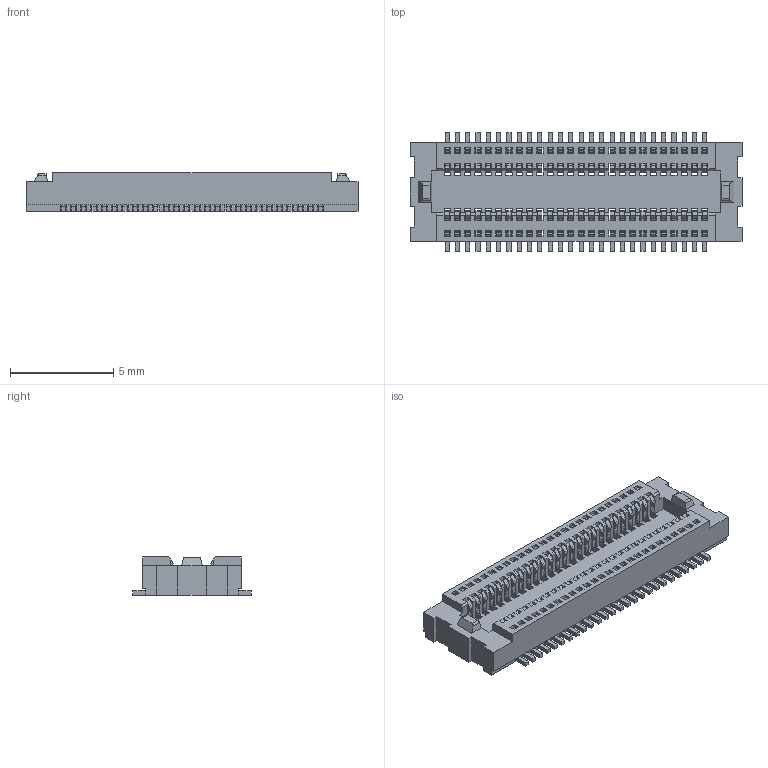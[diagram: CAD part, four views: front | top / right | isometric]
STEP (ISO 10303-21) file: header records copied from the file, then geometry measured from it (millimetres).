
FILE_DESCRIPTION(('CATIA V5 STEP Exchange'),'2;1');
FILE_NAME('F:\黄富鸿\板对板\0.5 单槽\无柱\母座\H1.85\HC-PBB05-1-52-F-H1.85-G1-R-06 (BTB0.5 单槽 母座 立贴 编带)-HCTL.stp','2026-01-21T08:10:14+00:00',('none'),('none'),'CATIA Version 5 Release 20 GA (IN-10)','CATIA V5 STEP AP203','none');
FILE_SCHEMA(('CONFIG_CONTROL_DESIGN'));
Products named in the file (1): Part2
Bounding box: 16.1 x 5.76 x 1.85 mm (x, y, z)
Volume: 88.1 mm3; surface area: 682.7 mm2
Topology: 53 solids, 53 shells, 2342 faces, 7172 edges, 4780 vertices
Faces by surface type: plane 1610, cylinder 732
Entity records: 68140 total; most frequent: ORIENTED_EDGE 14344, CARTESIAN_POINT 12237, DIRECTION 7576, EDGE_CURVE 7172, VECTOR 5708, LINE 5708, VERTEX_POINT 4780, EDGE_LOOP 2394
